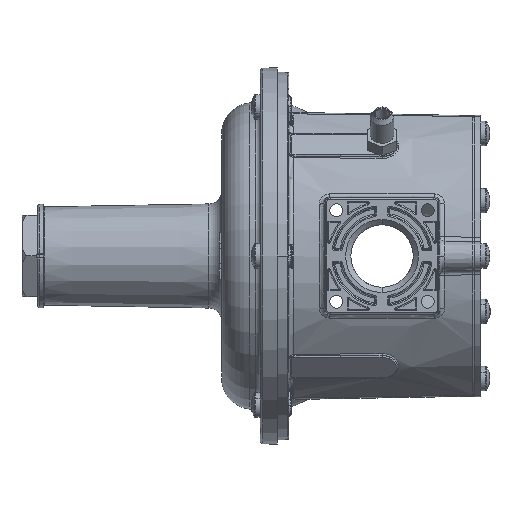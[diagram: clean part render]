
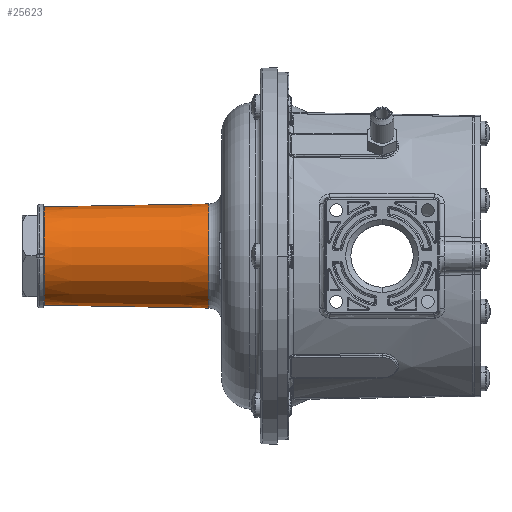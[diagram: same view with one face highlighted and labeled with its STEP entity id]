
A CAD part, left-side view. The second image highlights one B-rep face of the part: STEP entity #25623.
In plain terms, the highlighted conical face has half-angle 1 degrees and reference radius 19 mm.
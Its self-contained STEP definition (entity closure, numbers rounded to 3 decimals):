
#853 = LINE ( 'NONE', #30578, #865 ) ;
#863 = LINE ( 'NONE', #30592, #873 ) ;
#865 = VECTOR ( 'NONE', #30575, 1000. ) ;
#873 = VECTOR ( 'NONE', #30611, 1000. ) ;
#875 = CIRCLE ( 'NONE', #48435, 20.119 ) ;
#2430 = EDGE_LOOP ( 'NONE', ( #32069, #32064, #32140, #32121 ) ) ;
#6711 = CARTESIAN_POINT ( 'NONE',  ( 0., 98.913, 20.119 ) ) ;
#6892 = CARTESIAN_POINT ( 'NONE',  ( 0., 98.913, -20.119 ) ) ;
#8531 = AXIS2_PLACEMENT_3D ( 'NONE', #45375, #45368, #45353 ) ;
#10376 = AXIS2_PLACEMENT_3D ( 'NONE', #16513, #16516, #16519 ) ;
#10556 = CARTESIAN_POINT ( 'NONE',  ( 0., 162.509, -19.009 ) ) ;
#10627 = CARTESIAN_POINT ( 'NONE',  ( 0., 162.509, 19.009 ) ) ;
#11369 = CIRCLE ( 'NONE', #10376, 19.009 ) ;
#16513 = CARTESIAN_POINT ( 'NONE',  ( 0., 162.509, 0. ) ) ;
#16516 = DIRECTION ( 'NONE',  ( 0., -1., 0. ) ) ;
#16519 = DIRECTION ( 'NONE',  ( 0., 0., -1. ) ) ;
#19000 = EDGE_CURVE ( 'NONE', #25328, #24895, #853, .T. ) ;
#19008 = EDGE_CURVE ( 'NONE', #25287, #25076, #863, .T. ) ;
#19011 = EDGE_CURVE ( 'NONE', #25076, #24895, #875, .T. ) ;
#24895 = VERTEX_POINT ( 'NONE', #6711 ) ;
#25076 = VERTEX_POINT ( 'NONE', #6892 ) ;
#25287 = VERTEX_POINT ( 'NONE', #10556 ) ;
#25328 = VERTEX_POINT ( 'NONE', #10627 ) ;
#25623 = ADVANCED_FACE ( 'NONE', ( #27738 ), #27739, .T. ) ;
#27738 = FACE_OUTER_BOUND ( 'NONE', #2430, .T. ) ;
#27739 = CONICAL_SURFACE ( 'NONE', #8531, 19., 0.017 ) ;
#30575 = DIRECTION ( 'NONE',  ( 0., -1., 0.017 ) ) ;
#30578 = CARTESIAN_POINT ( 'NONE',  ( 0., 163., 19. ) ) ;
#30592 = CARTESIAN_POINT ( 'NONE',  ( 0., 163., -19. ) ) ;
#30611 = DIRECTION ( 'NONE',  ( 0., -1., -0.017 ) ) ;
#30627 = CARTESIAN_POINT ( 'NONE',  ( 0., 98.913, 0. ) ) ;
#30628 = DIRECTION ( 'NONE',  ( 0., 1., 0. ) ) ;
#30629 = DIRECTION ( 'NONE',  ( 0., 0., 1. ) ) ;
#32064 = ORIENTED_EDGE ( 'NONE', *, *, #42057, .T. ) ;
#32069 = ORIENTED_EDGE ( 'NONE', *, *, #19000, .F. ) ;
#32121 = ORIENTED_EDGE ( 'NONE', *, *, #19011, .T. ) ;
#32140 = ORIENTED_EDGE ( 'NONE', *, *, #19008, .T. ) ;
#42057 = EDGE_CURVE ( 'NONE', #25328, #25287, #11369, .T. ) ;
#45353 = DIRECTION ( 'NONE',  ( 0., 0., -1. ) ) ;
#45368 = DIRECTION ( 'NONE',  ( 0., -1., 0. ) ) ;
#45375 = CARTESIAN_POINT ( 'NONE',  ( 0., 163., 0. ) ) ;
#48435 = AXIS2_PLACEMENT_3D ( 'NONE', #30627, #30628, #30629 ) ;
